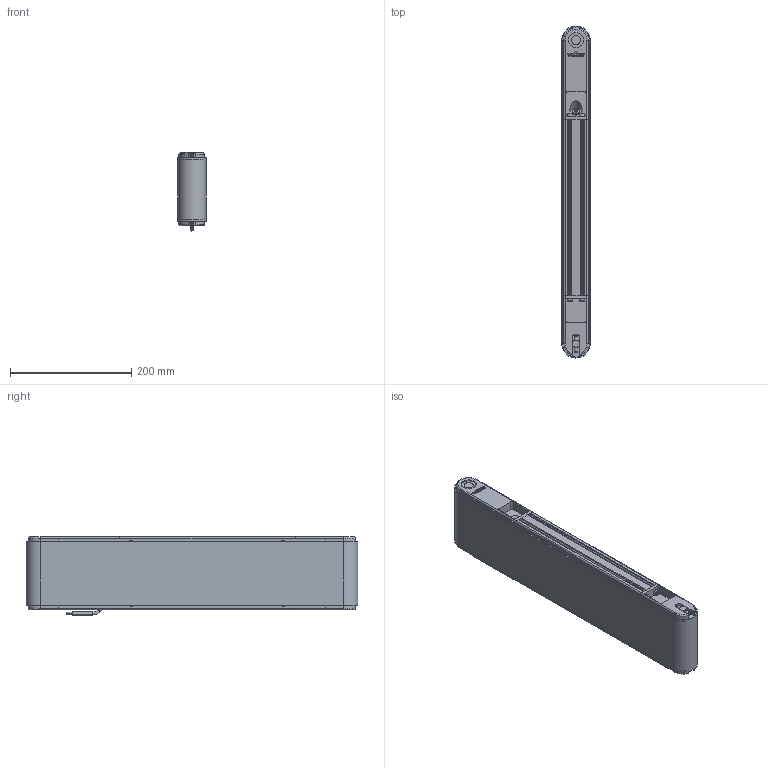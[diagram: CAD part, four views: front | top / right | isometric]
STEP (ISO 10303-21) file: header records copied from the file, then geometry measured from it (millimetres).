
FILE_DESCRIPTION(/* description */ (''),/* implementation_level */ '2;1');
FILE_NAME(/* name */ 'G:\DATEN\CAD\Förderband\Marketing\3D-Modelle (Standard)\FR-40-120\FR-40-120-500-K.stp',/* time_stamp */ '2019-05-08T08:30:46+02:00',/* author */ ('melanie.ochs'),/* organization */ (''),/* preprocessor_version */ 'ST-DEVELOPER v17',/* originating_system */ 'Autodesk Inventor 2019',/* authorisation */ '');
FILE_SCHEMA (('CONFIG_CONTROL_DESIGN'));
Length unit declared in the file: centimetre
Products named in the file (1): FR-40-120-500-K
Bounding box: 46.6 x 546.6 x 128.53 mm (x, y, z)
Volume: 1434944.1 mm3; surface area: 499791.9 mm2
Topology: 6 solids, 29 shells, 1033 faces, 2809 edges, 1878 vertices
Faces by surface type: plane 531, cylinder 285, bspline 122, cone 70, torus 25
Full cylindrical faces by diameter (mm): 2 x2, 4 x6, 4.3 x4, 4.64 x2, 4.917 x3, 5 x11, 5.5 x8, 6 x6, 6.5 x1, 6.647 x3, 8 x4, 8.3 x4, 8.5 x8, 8.773 x1, 10 x1, 11 x1, 12 x4, 15 x4, 20 x4, 25 x2, 28 x4
Entity records: 35166 total; most frequent: CARTESIAN_POINT 8354, ORIENTED_EDGE 5594, DIRECTION 5063, EDGE_CURVE 2797, VERTEX_POINT 1878, AXIS2_PLACEMENT_3D 1753, LINE 1557, VECTOR 1557
